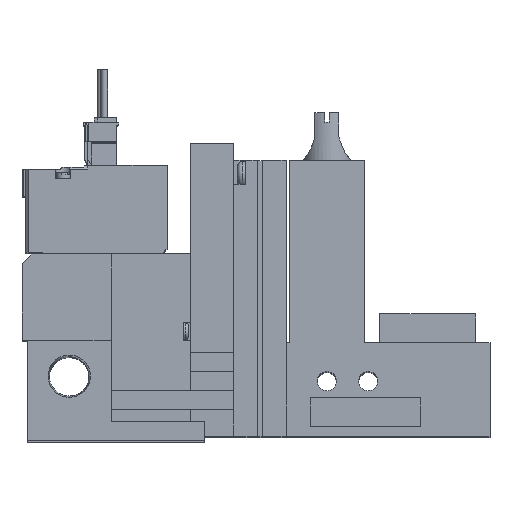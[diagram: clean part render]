
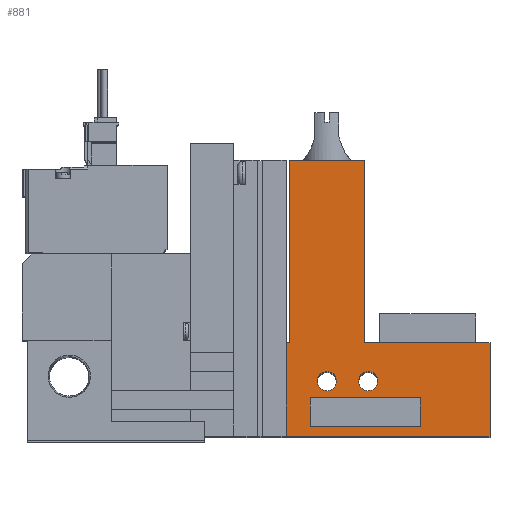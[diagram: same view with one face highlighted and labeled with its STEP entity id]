
A CAD part, top view. The second image highlights one B-rep face of the part: STEP entity #881.
In plain terms, the highlighted planar face has unit normal (0, 0, 1).
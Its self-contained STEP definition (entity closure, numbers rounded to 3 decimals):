
#881=ADVANCED_FACE('',(#1739,#1740,#1741,#1742),#1743,.T.);
#1739=FACE_BOUND('',#2960,.T.);
#1740=FACE_BOUND('',#2961,.T.);
#1741=FACE_BOUND('',#2962,.T.);
#1742=FACE_OUTER_BOUND('',#2963,.T.);
#1743=PLANE('',#2964);
#2960=EDGE_LOOP('',(#6056,#6057,#6058,#6059));
#2961=EDGE_LOOP('',(#6060));
#2962=EDGE_LOOP('',(#6061));
#2963=EDGE_LOOP('',(#6062,#6063,#6064,#6065,#6066,#6067,#6068,#6069));
#2964=AXIS2_PLACEMENT_3D('',#6070,#6071,#6072);
#6056=ORIENTED_EDGE('',*,*,#8467,.T.);
#6057=ORIENTED_EDGE('',*,*,#8468,.T.);
#6058=ORIENTED_EDGE('',*,*,#8469,.T.);
#6059=ORIENTED_EDGE('',*,*,#8329,.T.);
#6060=ORIENTED_EDGE('',*,*,#8470,.T.);
#6061=ORIENTED_EDGE('',*,*,#8471,.T.);
#6062=ORIENTED_EDGE('',*,*,#8472,.F.);
#6063=ORIENTED_EDGE('',*,*,#8313,.T.);
#6064=ORIENTED_EDGE('',*,*,#8473,.T.);
#6065=ORIENTED_EDGE('',*,*,#8474,.T.);
#6066=ORIENTED_EDGE('',*,*,#8475,.T.);
#6067=ORIENTED_EDGE('',*,*,#8476,.T.);
#6068=ORIENTED_EDGE('',*,*,#8450,.T.);
#6069=ORIENTED_EDGE('',*,*,#8351,.T.);
#6070=CARTESIAN_POINT('',(0.0,0.0,10.0));
#6071=DIRECTION('',(0.0,0.0,1.0));
#6072=DIRECTION('',(1.0,0.0,0.0));
#8313=EDGE_CURVE('',#10063,#10061,#10064,.T.);
#8329=EDGE_CURVE('',#10085,#10090,#10092,.T.);
#8351=EDGE_CURVE('',#10132,#10130,#10133,.T.);
#8450=EDGE_CURVE('',#10292,#10132,#10293,.T.);
#8467=EDGE_CURVE('',#10090,#10321,#10322,.T.);
#8468=EDGE_CURVE('',#10321,#10323,#10324,.T.);
#8469=EDGE_CURVE('',#10323,#10085,#10325,.T.);
#8470=EDGE_CURVE('',#10326,#10326,#10327,.T.);
#8471=EDGE_CURVE('',#10328,#10328,#10329,.T.);
#8472=EDGE_CURVE('',#10063,#10130,#10330,.T.);
#8473=EDGE_CURVE('',#10061,#10331,#10332,.T.);
#8474=EDGE_CURVE('',#10331,#10333,#10334,.T.);
#8475=EDGE_CURVE('',#10333,#10335,#10336,.T.);
#8476=EDGE_CURVE('',#10335,#10292,#10337,.T.);
#10061=VERTEX_POINT('',#12890);
#10063=VERTEX_POINT('',#12893);
#10064=LINE('',#12894,#12895);
#10085=VERTEX_POINT('',#12927);
#10090=VERTEX_POINT('',#12934);
#10092=LINE('',#12937,#12938);
#10130=VERTEX_POINT('',#12996);
#10132=VERTEX_POINT('',#12999);
#10133=LINE('',#13000,#13001);
#10292=VERTEX_POINT('',#13298);
#10293=LINE('',#13299,#13300);
#10321=VERTEX_POINT('',#13342);
#10322=LINE('',#13343,#13344);
#10323=VERTEX_POINT('',#13345);
#10324=LINE('',#13346,#13347);
#10325=LINE('',#13348,#13349);
#10326=VERTEX_POINT('',#13350);
#10327=CIRCLE('',#13351,2.0);
#10328=VERTEX_POINT('',#13352);
#10329=CIRCLE('',#13353,2.0);
#10330=LINE('',#13354,#13355);
#10331=VERTEX_POINT('',#13356);
#10332=LINE('',#13357,#13358);
#10333=VERTEX_POINT('',#13359);
#10334=LINE('',#13360,#13361);
#10335=VERTEX_POINT('',#13362);
#10336=LINE('',#13363,#13364);
#10337=LINE('',#13365,#13366);
#12890=CARTESIAN_POINT('',(97.6,0.0,10.0));
#12893=CARTESIAN_POINT('',(55.1,0.0,10.0));
#12894=CARTESIAN_POINT('',(18.6,0.0,10.0));
#12895=VECTOR('',#15374,1.0);
#12927=CARTESIAN_POINT('',(83.1,2.0,10.0));
#12934=CARTESIAN_POINT('',(60.1,2.0,10.0));
#12937=CARTESIAN_POINT('',(0.0,2.0,10.0));
#12938=VECTOR('',#15392,1.0);
#12996=CARTESIAN_POINT('',(55.1,19.5,10.0));
#12999=CARTESIAN_POINT('',(55.75,19.5,10.0));
#13000=CARTESIAN_POINT('',(55.75,19.5,10.0));
#13001=VECTOR('',#15414,1.0);
#13298=CARTESIAN_POINT('',(55.75,57.5,10.0));
#13299=CARTESIAN_POINT('',(55.75,57.5,10.0));
#13300=VECTOR('',#15532,1.0);
#13342=CARTESIAN_POINT('',(60.1,8.0,10.0));
#13343=CARTESIAN_POINT('',(60.1,0.0,10.0));
#13344=VECTOR('',#15553,1.0);
#13345=CARTESIAN_POINT('',(83.1,8.0,10.0));
#13346=CARTESIAN_POINT('',(0.0,8.0,10.0));
#13347=VECTOR('',#15554,1.0);
#13348=CARTESIAN_POINT('',(83.1,0.0,10.0));
#13349=VECTOR('',#15555,1.0);
#13350=CARTESIAN_POINT('',(65.6,11.5,10.0));
#13351=AXIS2_PLACEMENT_3D('',#15556,#15557,#15558);
#13352=CARTESIAN_POINT('',(74.2,11.5,10.0));
#13353=AXIS2_PLACEMENT_3D('',#15559,#15560,#15561);
#13354=CARTESIAN_POINT('',(55.1,0.0,10.0));
#13355=VECTOR('',#15562,1.0);
#13356=CARTESIAN_POINT('',(97.6,19.5,10.0));
#13357=CARTESIAN_POINT('',(97.6,0.0,10.0));
#13358=VECTOR('',#15563,1.0);
#13359=CARTESIAN_POINT('',(71.45,19.5,10.0));
#13360=CARTESIAN_POINT('',(97.6,19.5,10.0));
#13361=VECTOR('',#15564,1.0);
#13362=CARTESIAN_POINT('',(71.45,57.5,10.0));
#13363=CARTESIAN_POINT('',(71.45,19.5,10.0));
#13364=VECTOR('',#15565,1.0);
#13365=CARTESIAN_POINT('',(71.45,57.5,10.0));
#13366=VECTOR('',#15566,1.0);
#15374=DIRECTION('',(1.0,0.0,0.0));
#15392=DIRECTION('',(-1.0,0.0,0.0));
#15414=DIRECTION('',(-1.0,0.0,0.0));
#15532=DIRECTION('',(0.0,-1.0,0.0));
#15553=DIRECTION('',(0.0,1.0,0.0));
#15554=DIRECTION('',(1.0,0.0,0.0));
#15555=DIRECTION('',(0.0,-1.0,0.0));
#15556=CARTESIAN_POINT('',(63.6,11.5,10.0));
#15557=DIRECTION('',(0.0,0.0,-1.0));
#15558=DIRECTION('',(1.0,0.0,0.0));
#15559=CARTESIAN_POINT('',(72.2,11.5,10.0));
#15560=DIRECTION('',(0.0,0.0,-1.0));
#15561=DIRECTION('',(1.0,0.0,0.0));
#15562=DIRECTION('',(0.0,1.0,0.0));
#15563=DIRECTION('',(0.0,1.0,0.0));
#15564=DIRECTION('',(-1.0,0.0,0.0));
#15565=DIRECTION('',(0.0,1.0,0.0));
#15566=DIRECTION('',(-1.0,0.0,0.0));
